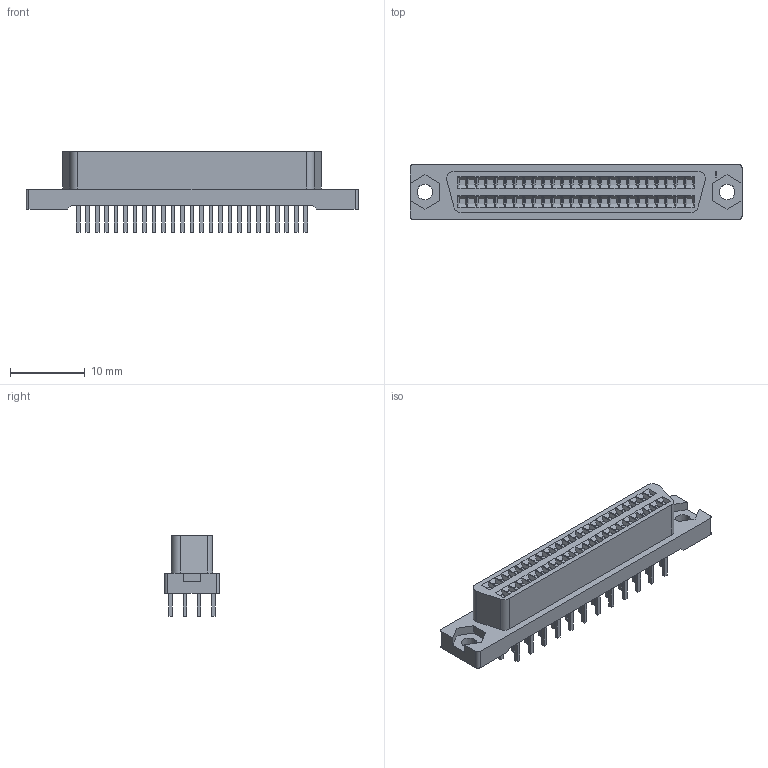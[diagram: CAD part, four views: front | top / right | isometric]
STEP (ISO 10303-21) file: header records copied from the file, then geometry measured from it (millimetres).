
FILE_DESCRIPTION((''),'2;1');
FILE_NAME('C-5173279-63-3','2007-10-11T',('workeradm'),('Tyco Electronics Corporation'),'PRO/ENGINEER BY PARAMETRIC TECHNOLOGY CORPORATION, 2005450','PRO/ENGINEER BY PARAMETRIC TECHNOLOGY CORPORATION, 2005450','');
FILE_SCHEMA(('CONFIG_CONTROL_DESIGN', 'GEOMETRIC_VALIDATION_PROPERTIES_MIM'));
Length unit declared in the file: millimetre
Products named in the file (1): C-5173279-63-3
Bounding box: 44.45 x 7.3 x 10.8 mm (x, y, z)
Volume: 1646 mm3; surface area: 1728.8 mm2
Topology: 1 solids, 1 shells, 747 faces, 1729 edges, 1086 vertices
Faces by surface type: plane 735, cylinder 12
Entity records: 20624 total; most frequent: CARTESIAN_POINT 3563, ORIENTED_EDGE 3458, DIRECTION 3247, EDGE_CURVE 1729, VECTOR 1705, LINE 1705, VERTEX_POINT 1086, EDGE_LOOP 853
